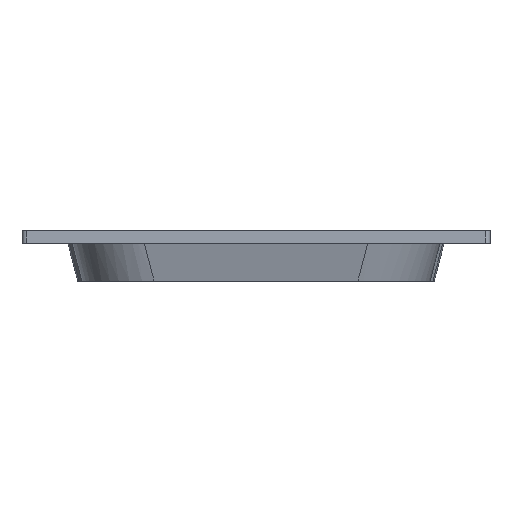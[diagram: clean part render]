
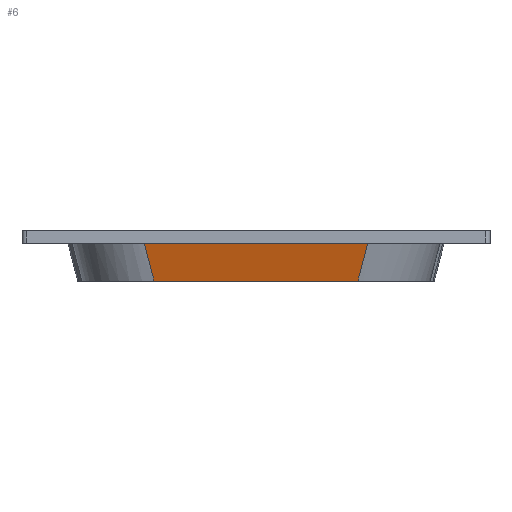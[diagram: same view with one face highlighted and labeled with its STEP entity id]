
A CAD part, top view. The second image highlights one B-rep face of the part: STEP entity #6.
In plain terms, the highlighted planar face has unit normal (0, -0.255, 0.967).
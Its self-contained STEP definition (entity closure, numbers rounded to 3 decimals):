
#6 = ADVANCED_FACE ( 'NONE', ( #1049 ), #4775, .T. ) ;
#12 = EDGE_CURVE ( 'NONE', #3609, #2023, #660, .T. ) ;
#122 = LINE ( 'NONE', #4561, #4785 ) ;
#135 = AXIS2_PLACEMENT_3D ( 'NONE', #4021, #2602, #4357 ) ;
#384 = VECTOR ( 'NONE', #645, 1000. ) ;
#400 = ORIENTED_EDGE ( 'NONE', *, *, #12, .F. ) ;
#499 = VERTEX_POINT ( 'NONE', #3075 ) ;
#558 = ORIENTED_EDGE ( 'NONE', *, *, #3727, .T. ) ;
#624 = LINE ( 'NONE', #4623, #384 ) ;
#645 = DIRECTION ( 'NONE',  ( -1., 0., 0. ) ) ;
#660 = LINE ( 'NONE', #3282, #2874 ) ;
#1049 = FACE_OUTER_BOUND ( 'NONE', #3214, .T. ) ;
#1376 = LINE ( 'NONE', #2860, #2724 ) ;
#1607 = CARTESIAN_POINT ( 'NONE',  ( 20.594, -10.2, 27.3 ) ) ;
#1613 = CARTESIAN_POINT ( 'NONE',  ( -20.594, -10.2, 27.3 ) ) ;
#1765 = ORIENTED_EDGE ( 'NONE', *, *, #3109, .T. ) ;
#1999 = DIRECTION ( 'NONE',  ( 0.247, -0.937, -0.247 ) ) ;
#2023 = VERTEX_POINT ( 'NONE', #1613 ) ;
#2602 = DIRECTION ( 'NONE',  ( 0., -0.254, 0.967 ) ) ;
#2724 = VECTOR ( 'NONE', #3578, 1000. ) ;
#2860 = CARTESIAN_POINT ( 'NONE',  ( 23.476, 0.753, 30.182 ) ) ;
#2874 = VECTOR ( 'NONE', #4734, 1000. ) ;
#3075 = CARTESIAN_POINT ( 'NONE',  ( 22.594, -2.6, 29.3 ) ) ;
#3109 = EDGE_CURVE ( 'NONE', #499, #4512, #624, .T. ) ;
#3214 = EDGE_LOOP ( 'NONE', ( #1765, #558, #400, #4382 ) ) ;
#3282 = CARTESIAN_POINT ( 'NONE',  ( 35.1, -10.2, 27.3 ) ) ;
#3578 = DIRECTION ( 'NONE',  ( 0.247, 0.937, 0.247 ) ) ;
#3609 = VERTEX_POINT ( 'NONE', #1607 ) ;
#3727 = EDGE_CURVE ( 'NONE', #4512, #2023, #122, .T. ) ;
#3909 = CARTESIAN_POINT ( 'NONE',  ( -22.594, -2.6, 29.3 ) ) ;
#4021 = CARTESIAN_POINT ( 'NONE',  ( 37.1, -2.6, 29.3 ) ) ;
#4104 = EDGE_CURVE ( 'NONE', #3609, #499, #1376, .T. ) ;
#4357 = DIRECTION ( 'NONE',  ( -1., 0., 0. ) ) ;
#4382 = ORIENTED_EDGE ( 'NONE', *, *, #4104, .T. ) ;
#4512 = VERTEX_POINT ( 'NONE', #3909 ) ;
#4561 = CARTESIAN_POINT ( 'NONE',  ( -18.963, -16.398, 25.669 ) ) ;
#4623 = CARTESIAN_POINT ( 'NONE',  ( -37.1, -2.6, 29.3 ) ) ;
#4734 = DIRECTION ( 'NONE',  ( -1., 0., 0. ) ) ;
#4775 = PLANE ( 'NONE',  #135 ) ;
#4785 = VECTOR ( 'NONE', #1999, 1000. ) ;
